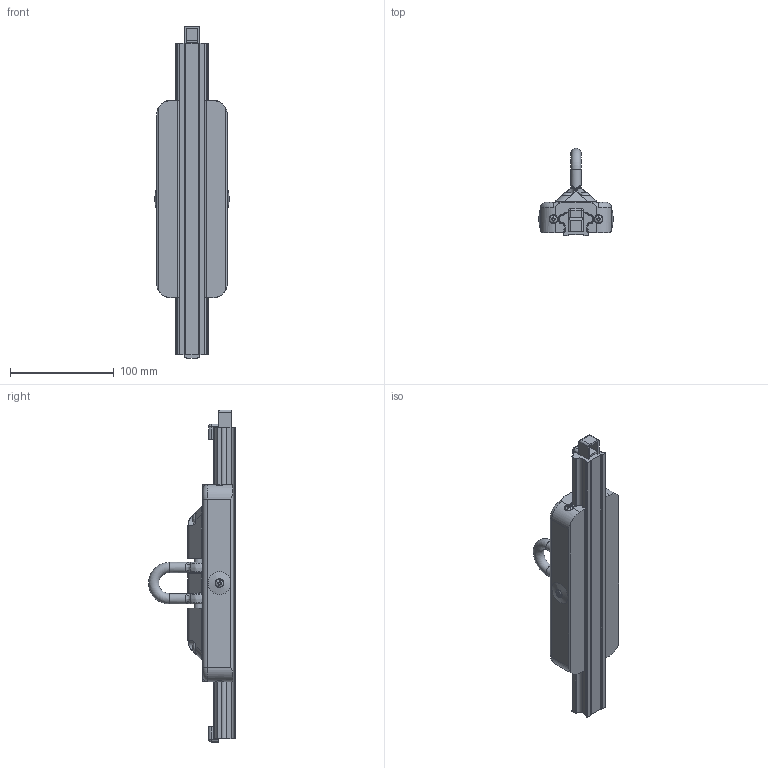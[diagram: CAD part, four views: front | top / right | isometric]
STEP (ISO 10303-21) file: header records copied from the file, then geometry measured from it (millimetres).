
FILE_DESCRIPTION(/* description */ (''),/* implementation_level */ '2;1');
FILE_NAME(/* name */ 'D:\Utenti\lucade\Desktop\4190-SH.stp',/* time_stamp */ '2020-07-10T13:04:02+02:00',/* author */ ('lucade'),/* organization */ (''),/* preprocessor_version */ 'ST-DEVELOPER v18.1',/* originating_system */ 'Autodesk Inventor 2021',/* authorisation */ '');
FILE_SCHEMA (('AUTOMOTIVE_DESIGN { 1 0 10303 214 3 1 1 }'));
Length unit declared in the file: millimetre
Products named in the file (1): Parte1
Bounding box: 71.92 x 83.9 x 319.8 mm (x, y, z)
Volume: 479540.8 mm3; surface area: 74057.3 mm2
Topology: 2 solids, 4 shells, 671 faces, 1887 edges, 1231 vertices
Faces by surface type: plane 299, cylinder 203, cone 64, bspline 64, torus 27, sphere 14
Full cylindrical faces by diameter (mm): 3.5 x2, 3.6 x2, 5.1 x2, 6.8 x2, 8 x1, 8.2 x3, 8.4 x2, 8.5 x6, 10 x2, 11 x2, 17 x2
Entity records: 24065 total; most frequent: CARTESIAN_POINT 7006, ORIENTED_EDGE 3742, DIRECTION 3515, EDGE_CURVE 1871, AXIS2_PLACEMENT_3D 1354, VERTEX_POINT 1231, LINE 807, VECTOR 807
